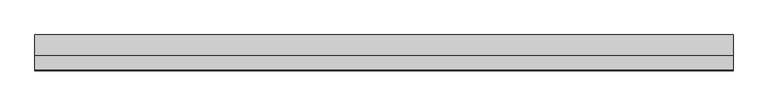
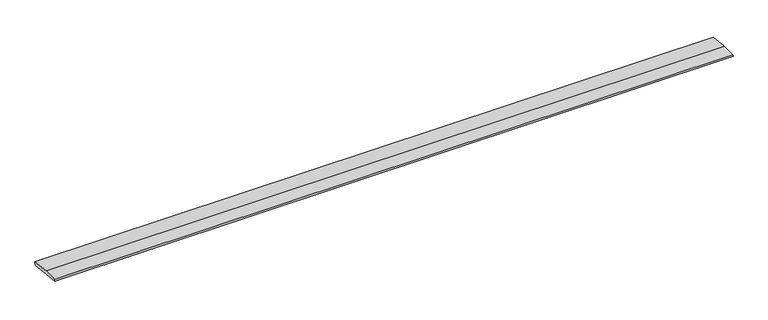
"""IFC4 building model written with IfcOpenShell, lengths in millimetres: beam geometry, weatherboad : weatherboad."""

from ifc_helpers import new_model, si_unit, frame, origin, place, context, project, spatial, polyline, outline, extrude, source, transform, mapped, element, save


def beam_e4c2bb90(model_context):
    return source(origin(), model_context, "Body", "SweptSolid", [
        extrude(outline(polyline([(0.0, -9.143159), (1.1226388, 0.0), (79.0749747, 0.0), (180.9387048, -12.5072934), (178.6231873, -31.3656703), (0.0, -9.143159)])), frame((-1767.5688809, 0.0, 0.0), z_axis=(1.0, 0.0, 0.0), x_axis=(0.0, 1.0, 0.0)), (0.0, 0.0, 1.0), 3535.1377619),
    ])


if __name__ == "__main__":
    model = new_model("IFC4")
    model_context = context("Model", 3, world=origin())
    ifc_project = project(units=[si_unit("LENGTHUNIT", "METRE", prefix="MILLI")], contexts=[model_context])
    site = spatial("IfcSite", under=ifc_project)
    building = spatial("IfcBuilding", under=site)
    placement = place(None, origin())
    beam_shape = beam_e4c2bb90(model_context)
    element("IfcBeam", 1, ObjectType="weatherboad : weatherboad", at=placement, inside=building, context=model_context, shape_type="MappedRepresentation", body=[
        mapped(beam_shape, transform((0.0, 0.0, 0.0), x_axis=(1.0, 0.0, 0.0), y_axis=(0.0, 1.0, 0.0), z_axis=(0.0, 0.0, 1.0))),
    ])
    save(model, "model.ifc")
